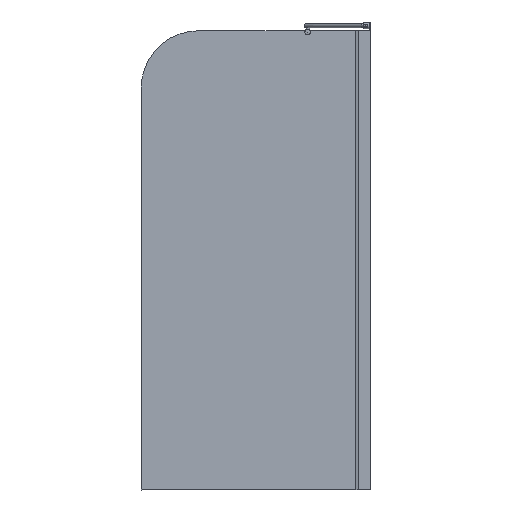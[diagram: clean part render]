
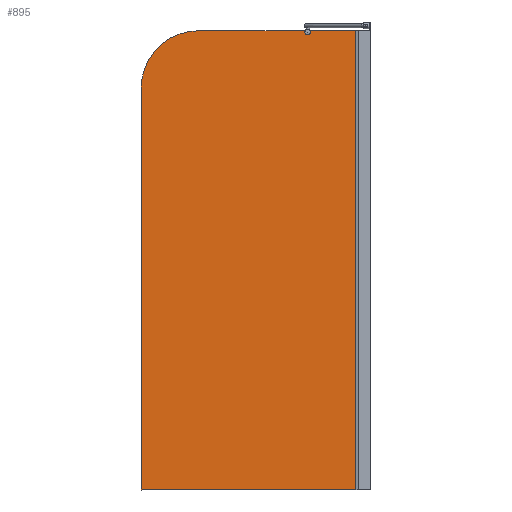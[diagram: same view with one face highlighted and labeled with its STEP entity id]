
A CAD part, left-side view. The second image highlights one B-rep face of the part: STEP entity #895.
In plain terms, the highlighted planar face has unit normal (-1, 0, 0).
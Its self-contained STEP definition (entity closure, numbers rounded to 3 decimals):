
#21=PLANE($,#962);
#61=LINE($,#1517,#135);
#62=LINE($,#1521,#136);
#63=LINE($,#1523,#137);
#64=LINE($,#1525,#138);
#65=LINE($,#1526,#139);
#135=VECTOR($,#1081,371.666);
#136=VECTOR($,#1084,1400.);
#137=VECTOR($,#1085,748.);
#138=VECTOR($,#1086,1600.);
#139=VECTOR($,#1087,158.474);
#236=FACE_OUTER_BOUND($,#292,.T.);
#292=EDGE_LOOP($,(#633,#634,#635,#636,#637,#638,#639));
#336=CIRCLE($,#941,10.);
#345=CIRCLE($,#963,200.);
#373=VERTEX_POINT($,#1312);
#374=VERTEX_POINT($,#1314);
#391=VERTEX_POINT($,#1516);
#392=VERTEX_POINT($,#1518);
#393=VERTEX_POINT($,#1520);
#394=VERTEX_POINT($,#1522);
#395=VERTEX_POINT($,#1524);
#459=EDGE_CURVE($,#373,#374,#336,.T.);
#483=EDGE_CURVE($,#391,#373,#61,.T.);
#484=EDGE_CURVE($,#391,#392,#345,.T.);
#485=EDGE_CURVE($,#392,#393,#62,.T.);
#486=EDGE_CURVE($,#393,#394,#63,.T.);
#487=EDGE_CURVE($,#395,#394,#64,.T.);
#488=EDGE_CURVE($,#374,#395,#65,.T.);
#633=ORIENTED_EDGE($,*,*,#459,.F.);
#634=ORIENTED_EDGE($,*,*,#483,.F.);
#635=ORIENTED_EDGE($,*,*,#484,.T.);
#636=ORIENTED_EDGE($,*,*,#485,.T.);
#637=ORIENTED_EDGE($,*,*,#486,.T.);
#638=ORIENTED_EDGE($,*,*,#487,.F.);
#639=ORIENTED_EDGE($,*,*,#488,.F.);
#895=ADVANCED_FACE($,(#236),#21,.F.);
#941=AXIS2_PLACEMENT_3D($,#1315,#1030,#1031);
#962=AXIS2_PLACEMENT_3D($,#1515,#1079,#1080);
#963=AXIS2_PLACEMENT_3D($,#1519,#1082,#1083);
#1030=DIRECTION('center_axis',(-1.,0.,0.));
#1031=DIRECTION('ref_axis',(0.,-0.597,0.802));
#1079=DIRECTION('center_axis',(1.,0.,0.));
#1080=DIRECTION('ref_axis',(0.,-1.,0.));
#1081=DIRECTION($,(0.,-1.,0.));
#1082=DIRECTION('center_axis',(-1.,0.,0.));
#1083=DIRECTION('ref_axis',(0.,0.707,0.707));
#1084=DIRECTION($,(0.,0.,-1.));
#1085=DIRECTION($,(0.,-1.,0.));
#1086=DIRECTION($,(0.,0.,-1.));
#1087=DIRECTION($,(0.,-1.,0.));
#1312=CARTESIAN_POINT('',(1218.733,-25.71,1625.944));
#1314=CARTESIAN_POINT('',(1218.733,-43.57,1625.944));
#1315=CARTESIAN_POINT('Origin',(1218.733,-34.64,1621.444));
#1515=CARTESIAN_POINT('Origin',(1218.733,545.956,1625.944));
#1516=CARTESIAN_POINT('',(1218.733,345.956,1625.944));
#1517=CARTESIAN_POINT($,(1218.733,545.956,1625.944));
#1518=CARTESIAN_POINT('',(1218.733,545.956,1425.944));
#1519=CARTESIAN_POINT('Origin',(1218.733,345.956,1425.944));
#1520=CARTESIAN_POINT('',(1218.733,545.956,25.944));
#1521=CARTESIAN_POINT($,(1218.733,545.956,1625.944));
#1522=CARTESIAN_POINT('',(1218.733,-202.044,25.944));
#1523=CARTESIAN_POINT($,(1218.733,545.956,25.944));
#1524=CARTESIAN_POINT('',(1218.733,-202.044,1625.944));
#1525=CARTESIAN_POINT($,(1218.733,-202.044,1625.944));
#1526=CARTESIAN_POINT($,(1218.733,545.956,1625.944));
